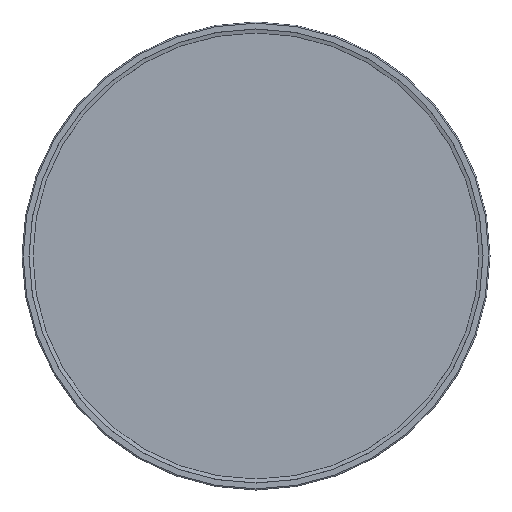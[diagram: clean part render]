
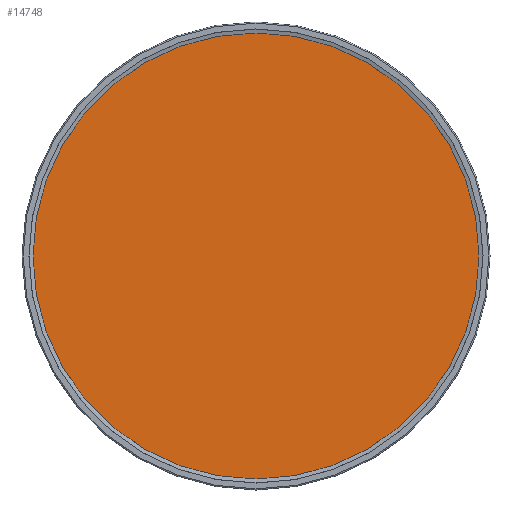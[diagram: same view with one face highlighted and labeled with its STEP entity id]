
A CAD part, front view. The second image highlights one B-rep face of the part: STEP entity #14748.
In plain terms, the highlighted planar face has unit normal (0, -1, 0) as drawn and (0, 0, -1) by its records, which use the part's own axes.
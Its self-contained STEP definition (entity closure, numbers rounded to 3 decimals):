
#144 = EDGE_CURVE ( 'NONE', #3344, #3344, #3678, .T. ) ;
#1522 = DIRECTION ( 'NONE',  ( 0., 0., 1. ) ) ;
#3344 = VERTEX_POINT ( 'NONE', #16543 ) ;
#3466 = DIRECTION ( 'NONE',  ( 1., 0., 0. ) ) ;
#3630 = AXIS2_PLACEMENT_3D ( 'NONE', #10829, #13830, #3466 ) ;
#3678 = CIRCLE ( 'NONE', #10809, 296. ) ;
#5071 = EDGE_LOOP ( 'NONE', ( #10708 ) ) ;
#8920 = CARTESIAN_POINT ( 'NONE',  ( 0., 0., 0. ) ) ;
#10659 = DIRECTION ( 'NONE',  ( 1., 0., 0. ) ) ;
#10708 = ORIENTED_EDGE ( 'NONE', *, *, #144, .F. ) ;
#10809 = AXIS2_PLACEMENT_3D ( 'NONE', #8920, #1522, #10659 ) ;
#10829 = CARTESIAN_POINT ( 'NONE',  ( 0., 0., 0. ) ) ;
#13830 = DIRECTION ( 'NONE',  ( 0., 0., 1. ) ) ;
#14748 = ADVANCED_FACE ( 'NONE', ( #15299 ), #16471, .F. ) ;
#15299 = FACE_OUTER_BOUND ( 'NONE', #5071, .T. ) ;
#16471 = PLANE ( 'NONE',  #3630 ) ;
#16543 = CARTESIAN_POINT ( 'NONE',  ( 296., 0., 0. ) ) ;
